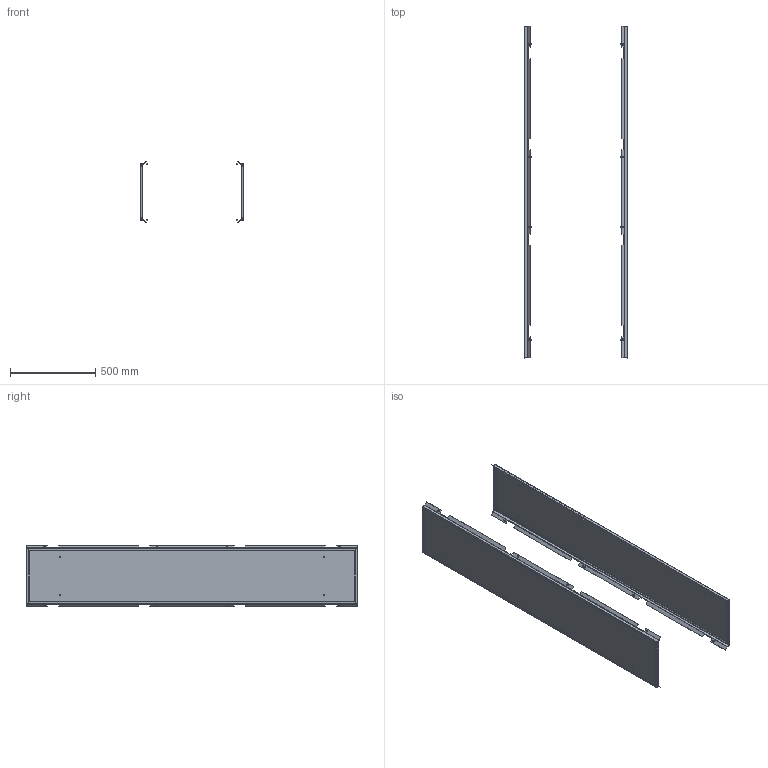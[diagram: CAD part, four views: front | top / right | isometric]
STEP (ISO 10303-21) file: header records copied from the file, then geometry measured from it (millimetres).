
FILE_DESCRIPTION (( 'STEP AP203' ), '1' );
FILE_NAME ('MA1.200.060420.20.00 AleSta-PS204 Áîêîâûå ïàíåëè AleSta 2000x400 (2 øò).STEP', '2025-02-19T14:40:21', ( '' ), ( '' ), 'SwSTEP 2.0', 'SolidWorks 2021', '' );
FILE_SCHEMA (( 'CONFIG_CONTROL_DESIGN' ));
Length unit declared in the file: millimetre
Products named in the file (6): Øïèëüêà Ì6õ12_˜¯¨«ìª  Œ6å12; Âèíò ñàìîíàðåçàþùèé ñ ïîòàéíîé ãîëîâêîé Ì5x16 DIN 7500 M TORX, êëàññ ïðî÷íîñòè 8.8, îöèíêîâàííàÿ ñòàëü_Œ5å16; MA1.200.060620.21.01 Ïîëîòíî ñòåíêè áîêîâîé 600õ2000_2000å400; MA1.200.060620.21.00 Ñòåíêà áîêîâàÿ 600x2000_2000å400; Óïëîòíèòåëü ïàíåëè íèæíåé_  ‚=2000; MA1.200.060420.20.00 AleSta-PS204  Áîêîâûå ïàíåëè AleSta 2000x400 (2 øò)
Assembly tree (24 placements, depth 3):
  MA1.200.060420.20.00 AleSta-PS204  Áîêîâûå ïàíåëè AleSta 2000x400 (2 øò)
    MA1.200.060620.21.00 Ñòåíêà áîêîâàÿ 600x2000_2000å400  x2
      MA1.200.060620.21.01 Ïîëîòíî ñòåíêè áîêîâîé 600õ2000_2000å400
      Øïèëüêà Ì6õ12_˜¯¨«ìª  Œ6å12
      Óïëîòíèòåëü ïàíåëè íèæíåé_  ‚=2000
    Âèíò ñàìîíàðåçàþùèé ñ ïîòàéíîé ãîëîâêîé Ì5x16 DIN 7500 M TORX, êëàññ ïðî÷íîñòè 8.8, îöèíêîâàííàÿ ñòàëü_Œ5å16  x16
Bounding box: 606 x 1945 x 360.73 mm (x, y, z)
Volume: 2166127 mm3; surface area: 3488937.5 mm2
Topology: 28 solids, 28 shells, 1116 faces, 2788 edges, 1784 vertices
Faces by surface type: cylinder 636, plane 368, cone 80, bspline 16, torus 16
Entity records: 8629 total; most frequent: CARTESIAN_POINT 1714, DIRECTION 1281, ORIENTED_EDGE 1158, EDGE_CURVE 579, AXIS2_PLACEMENT_3D 475, VERTEX_POINT 360, LINE 331, VECTOR 331
